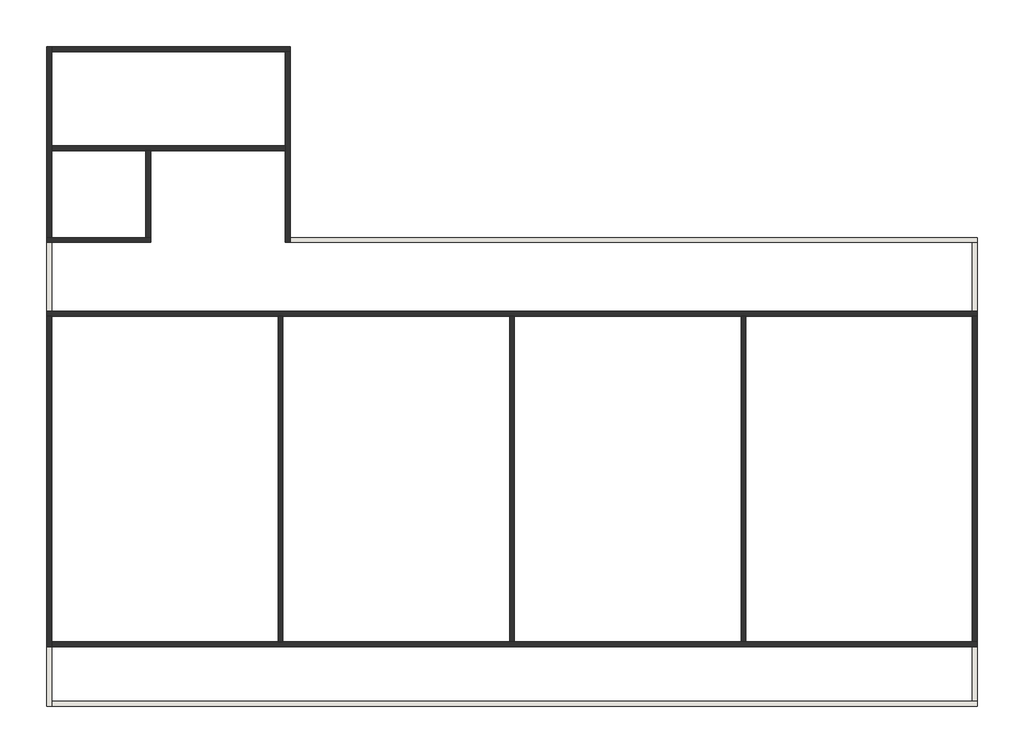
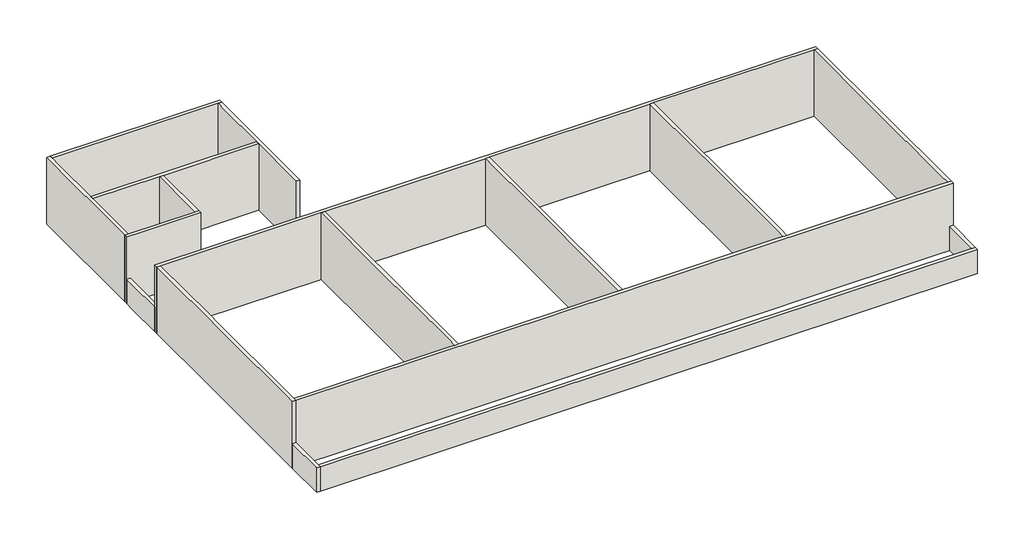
# One storey: 19 walls.
"""IFC4 building model written with IfcOpenShell, lengths in millimetres."""

from ifc_helpers import new_model, si_unit, frame, origin, place, context, project, spatial, polyline, outline, extrude, faceted_brep, element, save

model = new_model("IFC4")

# Units and contexts
model_context = context("Model", 3, world=origin())
ifc_project = project(units=[si_unit("LENGTHUNIT", "METRE", prefix="MILLI")], contexts=[model_context])

# Site, building, storey
site = spatial("IfcSite", under=ifc_project)
building = spatial("IfcBuilding", under=site)
storey = spatial("IfcBuildingStorey", under=building, Name="基準階", Elevation=3600.0)

# Walls
placement = place(None, origin())
element("IfcWall", 1, ObjectType="標準-150mm", at=placement, inside=storey, context=model_context, shape_type="Brep", body=[
    faceted_brep([(-19691.9943915, 10614.5472574, 3600.0), (-19691.9943915, 4839.5472574, 3600.0), (-19691.9943915, 4839.5472574, 6600.0), (-19691.9943915, 10614.5472574, 6600.0), (-19541.9943915, 10614.5472574, 3600.0), (-19541.9943915, 10614.5472574, 6600.0), (-19541.9943915, 10464.5472574, 6600.0), (-19541.9943915, 10014.5472574, 6600.0), (-19541.9943915, 7614.5472574, 6600.0), (-19541.9943915, 7464.5472574, 6600.0), (-19541.9943915, 4839.5472574, 6600.0), (-19541.9943915, 4839.5472574, 3600.0), (-19541.9943915, 7464.5472574, 3600.0), (-19541.9943915, 7614.5472574, 3600.0), (-19541.9943915, 10464.5472574, 3600.0)], [[[0, 1, 2, 3]], [[4, 5, 6, 7, 8, 9, 10, 11, 12, 13, 14]], [[1, 0, 4, 14, 13, 12, 11]], [[3, 2, 10, 9, 8, 7, 6, 5]], [[0, 3, 5, 4]], [[1, 11, 10, 2]]]),
])
element("IfcWall", 2, ObjectType="標準-150mm", at=placement, inside=storey, context=model_context, shape_type="Brep", body=[
    faceted_brep([(-19541.9943915, -7535.4527426, 6600.0), (-19541.9943915, -7535.4527426, 3600.0), (-12766.9943915, -7535.4527426, 3600.0), (-12316.9943915, -7535.4527426, 3600.0), (-5916.9943915, -7535.4527426, 3600.0), (-5316.9943915, -7535.4527426, 3600.0), (1083.0056085, -7535.4527426, 3600.0), (1683.0056085, -7535.4527426, 3600.0), (7858.0056085, -7535.4527426, 3600.0), (8308.0056085, -7535.4527426, 3600.0), (8458.0056085, -7535.4527426, 3600.0), (8458.0056085, -7535.4527426, 4700.0), (8458.0056085, -7535.4527426, 6600.0), (-19541.9943915, -7385.4527426, 3600.0), (-19541.9943915, -7385.4527426, 6600.0), (-19091.9943915, -7385.4527426, 6600.0), (-12916.9943915, -7385.4527426, 6600.0), (-12691.9943915, -7385.4527426, 6600.0), (-12541.9943915, -7385.4527426, 6600.0), (-12316.9943915, -7385.4527426, 6600.0), (-5916.9943915, -7385.4527426, 6600.0), (-5691.9943915, -7385.4527426, 6600.0), (-5541.9943915, -7385.4527426, 6600.0), (-5316.9943915, -7385.4527426, 6600.0), (1083.0056085, -7385.4527426, 6600.0), (1308.0056085, -7385.4527426, 6600.0), (1458.0056085, -7385.4527426, 6600.0), (1683.0056085, -7385.4527426, 6600.0), (7858.0056085, -7385.4527426, 6600.0), (8308.0056085, -7385.4527426, 6600.0), (8458.0056085, -7385.4527426, 6600.0), (8458.0056085, -7385.4527426, 3600.0), (8308.0056085, -7385.4527426, 3600.0), (7858.0056085, -7385.4527426, 3600.0), (1683.0056085, -7385.4527426, 3600.0), (1458.0056085, -7385.4527426, 3600.0), (1308.0056085, -7385.4527426, 3600.0), (1083.0056085, -7385.4527426, 3600.0), (-5316.9943915, -7385.4527426, 3600.0), (-5541.9943915, -7385.4527426, 3600.0), (-5691.9943915, -7385.4527426, 3600.0), (-5916.9943915, -7385.4527426, 3600.0), (-12316.9943915, -7385.4527426, 3600.0), (-12541.9943915, -7385.4527426, 3600.0), (-12691.9943915, -7385.4527426, 3600.0), (-12766.9943915, -7385.4527426, 3600.0), (-12916.9943915, -7385.4527426, 3600.0)], [[[0, 1, 2, 3, 4, 5, 6, 7, 8, 9, 10, 11, 12]], [[13, 14, 15, 16, 17, 18, 19, 20, 21, 22, 23, 24, 25, 26, 27, 28, 29, 30, 31, 32, 33, 34, 35, 36, 37, 38, 39, 40, 41, 42, 43, 44, 45, 46]], [[10, 9, 8, 7, 6, 5, 4, 3, 2, 1, 13, 46, 45, 44, 43, 42, 41, 40, 39, 38, 37, 36, 35, 34, 33, 32, 31]], [[0, 12, 30, 29, 28, 27, 26, 25, 24, 23, 22, 21, 20, 19, 18, 17, 16, 15, 14]], [[0, 14, 13, 1]], [[10, 31, 30, 12, 11]]]),
])
element("IfcWall", 3, ObjectType="標準-150mm", at=placement, inside=storey, context=model_context, shape_type="Brep", body=[
    faceted_brep([(8458.0056085, -7385.4527426, 6600.0), (8458.0056085, -7385.4527426, 3600.0), (8458.0056085, 2464.5472574, 3600.0), (8458.0056085, 2464.5472574, 6600.0), (8308.0056085, -7385.4527426, 3600.0), (8308.0056085, -7385.4527426, 6600.0), (8308.0056085, -6935.4527426, 6600.0), (8308.0056085, -1760.4527426, 6600.0), (8308.0056085, -1160.4527426, 6600.0), (8308.0056085, 2464.5472574, 6600.0), (8308.0056085, 2464.5472574, 3600.0)], [[[0, 1, 2, 3]], [[4, 5, 6, 7, 8, 9, 10]], [[2, 1, 4, 10]], [[0, 3, 9, 8, 7, 6, 5]], [[0, 5, 4, 1]], [[2, 10, 9, 3]]]),
])
element("IfcWall", 4, ObjectType="標準-150mm", at=placement, inside=storey, context=model_context, shape_type="Brep", body=[
    faceted_brep([(-19541.9943915, 10464.5472574, 3600.0), (-12916.9943915, 10464.5472574, 3600.0), (-12766.9943915, 10464.5472574, 3600.0), (-12466.9943915, 10464.5472574, 3600.0), (-12316.9943915, 10464.5472574, 3600.0), (-12316.9943915, 10464.5472574, 6600.0), (-12466.9943915, 10464.5472574, 6600.0), (-12916.9943915, 10464.5472574, 6600.0), (-19091.9943915, 10464.5472574, 6600.0), (-19541.9943915, 10464.5472574, 6600.0), (-19541.9943915, 10614.5472574, 3600.0), (-19541.9943915, 10614.5472574, 6600.0), (-12316.9943915, 10614.5472574, 6600.0), (-12316.9943915, 10614.5472574, 3600.0)], [[[0, 1, 2, 3, 4, 5, 6, 7, 8, 9]], [[10, 11, 12, 13]], [[4, 3, 2, 1, 0, 10, 13]], [[9, 8, 7, 6, 5, 12, 11]], [[0, 9, 11, 10]], [[5, 4, 13, 12]]]),
])
element("IfcWall", 5, ObjectType="標準-150mm", at=placement, inside=storey, context=model_context, shape_type="Brep", body=[
    faceted_brep([(-19691.9943915, 2464.5472574, 6600.0), (-19691.9943915, 2464.5472574, 3600.0), (-19541.9943915, 2464.5472574, 3600.0), (-12691.9943915, 2464.5472574, 3600.0), (-12541.9943915, 2464.5472574, 3600.0), (-5691.9943915, 2464.5472574, 3600.0), (-5541.9943915, 2464.5472574, 3600.0), (1308.0056085, 2464.5472574, 3600.0), (1458.0056085, 2464.5472574, 3600.0), (8308.0056085, 2464.5472574, 3600.0), (8458.0056085, 2464.5472574, 3600.0), (8458.0056085, 2464.5472574, 6600.0), (8308.0056085, 2464.5472574, 6600.0), (1458.0056085, 2464.5472574, 6600.0), (1308.0056085, 2464.5472574, 6600.0), (-5541.9943915, 2464.5472574, 6600.0), (-5691.9943915, 2464.5472574, 6600.0), (-12541.9943915, 2464.5472574, 6600.0), (-12691.9943915, 2464.5472574, 6600.0), (-19541.9943915, 2464.5472574, 6600.0), (-19691.9943915, 2614.5472574, 3600.0), (-19691.9943915, 2614.5472574, 4700.0), (-19691.9943915, 2614.5472574, 6600.0), (8458.0056085, 2614.5472574, 6600.0), (8458.0056085, 2614.5472574, 4700.0), (8458.0056085, 2614.5472574, 3600.0), (8308.0056085, 2614.5472574, 3600.0), (-19541.9943915, 2614.5472574, 3600.0)], [[[0, 1, 2, 3, 4, 5, 6, 7, 8, 9, 10, 11, 12, 13, 14, 15, 16, 17, 18, 19]], [[20, 21, 22, 23, 24, 25, 26, 27]], [[10, 9, 8, 7, 6, 5, 4, 3, 2, 1, 20, 27, 26, 25]], [[0, 19, 18, 17, 16, 15, 14, 13, 12, 11, 23, 22]], [[0, 22, 21, 20, 1]], [[10, 25, 24, 23, 11]]]),
])
element("IfcWall", 6, ObjectType="標準-150mm", at=placement, inside=storey, context=model_context, shape_type="Brep", body=[
    faceted_brep([(-19691.9943915, 4689.5472574, 6600.0), (-19691.9943915, 4689.5472574, 4700.0), (-19691.9943915, 4689.5472574, 3600.0), (-19541.9943915, 4689.5472574, 3600.0), (-16541.9943915, 4689.5472574, 3600.0), (-16541.9943915, 4689.5472574, 6600.0), (-19091.9943915, 4689.5472574, 6600.0), (-19691.9943915, 4839.5472574, 3600.0), (-19691.9943915, 4839.5472574, 6600.0), (-19541.9943915, 4839.5472574, 6600.0), (-16691.9943915, 4839.5472574, 6600.0), (-16541.9943915, 4839.5472574, 6600.0), (-16541.9943915, 4839.5472574, 3600.0), (-16691.9943915, 4839.5472574, 3600.0), (-19541.9943915, 4839.5472574, 3600.0)], [[[0, 1, 2, 3, 4, 5, 6]], [[7, 8, 9, 10, 11, 12, 13, 14]], [[4, 3, 2, 7, 14, 13, 12]], [[0, 6, 5, 11, 10, 9, 8]], [[5, 4, 12, 11]], [[0, 8, 7, 2, 1]]]),
])
element("IfcWall", 7, ObjectType="標準-150mm", at=placement, inside=storey, context=model_context, shape_type="SweptSolid", body=[
    extrude(outline(polyline([(-16541.9943915, 7464.5472574), (-16541.9943915, 4839.5472574), (-16691.9943915, 4839.5472574), (-16691.9943915, 7464.5472574), (-16541.9943915, 7464.5472574)])), frame((0.0, 0.0, 3600.0), z_axis=(0.0, 0.0, 1.0), x_axis=(1.0, 0.0, 0.0)), (0.0, 0.0, 1.0), 3000.0),
])
element("IfcWall", 8, ObjectType="標準-150mm", at=placement, inside=storey, context=model_context, shape_type="Brep", body=[
    faceted_brep([(-19541.9943915, 7464.5472574, 3600.0), (-16691.9943915, 7464.5472574, 3600.0), (-16541.9943915, 7464.5472574, 3600.0), (-12466.9943915, 7464.5472574, 3600.0), (-12466.9943915, 7464.5472574, 6600.0), (-16541.9943915, 7464.5472574, 6600.0), (-16691.9943915, 7464.5472574, 6600.0), (-19541.9943915, 7464.5472574, 6600.0), (-19541.9943915, 7614.5472574, 3600.0), (-19541.9943915, 7614.5472574, 6600.0), (-12466.9943915, 7614.5472574, 6600.0), (-12466.9943915, 7614.5472574, 3600.0)], [[[0, 1, 2, 3, 4, 5, 6, 7]], [[8, 9, 10, 11]], [[3, 2, 1, 0, 8, 11]], [[7, 6, 5, 4, 10, 9]], [[0, 7, 9, 8]], [[4, 3, 11, 10]]]),
])
element("IfcWall", 9, ObjectType="標準-150mm", at=placement, inside=storey, context=model_context, shape_type="Brep", body=[
    faceted_brep([(-12466.9943915, 10464.5472574, 3600.0), (-12466.9943915, 10014.5472574, 3600.0), (-12466.9943915, 7614.5472574, 3600.0), (-12466.9943915, 7464.5472574, 3600.0), (-12466.9943915, 4839.5472574, 3600.0), (-12466.9943915, 4689.5472574, 3600.0), (-12466.9943915, 4689.5472574, 6600.0), (-12466.9943915, 4839.5472574, 6600.0), (-12466.9943915, 7464.5472574, 6600.0), (-12466.9943915, 7614.5472574, 6600.0), (-12466.9943915, 10014.5472574, 6600.0), (-12466.9943915, 10464.5472574, 6600.0), (-12316.9943915, 10464.5472574, 3600.0), (-12316.9943915, 10464.5472574, 6600.0), (-12316.9943915, 4689.5472574, 6600.0), (-12316.9943915, 4689.5472574, 4700.0), (-12316.9943915, 4689.5472574, 3600.0), (-12316.9943915, 4839.5472574, 3600.0), (-12316.9943915, 10014.5472574, 3600.0)], [[[0, 1, 2, 3, 4, 5, 6, 7, 8, 9, 10, 11]], [[12, 13, 14, 15, 16, 17, 18]], [[5, 4, 3, 2, 1, 0, 12, 18, 17, 16]], [[11, 10, 9, 8, 7, 6, 14, 13]], [[6, 5, 16, 15, 14]], [[0, 11, 13, 12]]]),
])
element("IfcWall", 10, ObjectType="標準-150mm", at=placement, inside=storey, context=model_context, shape_type="Brep", body=[
    faceted_brep([(-12691.9943915, 2464.5472574, 3600.0), (-12691.9943915, -1160.4527426, 3600.0), (-12691.9943915, -1760.4527426, 3600.0), (-12691.9943915, -6935.4527426, 3600.0), (-12691.9943915, -7385.4527426, 3600.0), (-12691.9943915, -7385.4527426, 6600.0), (-12691.9943915, -6935.4527426, 6600.0), (-12691.9943915, -1760.4527426, 6600.0), (-12691.9943915, -1160.4527426, 6600.0), (-12691.9943915, 2464.5472574, 6600.0), (-12541.9943915, 2464.5472574, 3600.0), (-12541.9943915, 2464.5472574, 6600.0), (-12541.9943915, -1160.4527426, 6600.0), (-12541.9943915, -1760.4527426, 6600.0), (-12541.9943915, -6935.4527426, 6600.0), (-12541.9943915, -7385.4527426, 6600.0), (-12541.9943915, -7385.4527426, 3600.0), (-12541.9943915, -6935.4527426, 3600.0), (-12541.9943915, -1760.4527426, 3600.0), (-12541.9943915, -1160.4527426, 3600.0)], [[[0, 1, 2, 3, 4, 5, 6, 7, 8, 9]], [[10, 11, 12, 13, 14, 15, 16, 17, 18, 19]], [[4, 3, 2, 1, 0, 10, 19, 18, 17, 16]], [[9, 8, 7, 6, 5, 15, 14, 13, 12, 11]], [[5, 4, 16, 15]], [[0, 9, 11, 10]]]),
])
element("IfcWall", 11, ObjectType="標準-150mm", at=placement, inside=storey, context=model_context, shape_type="Brep", body=[
    faceted_brep([(-5691.9943915, 2464.5472574, 3600.0), (-5691.9943915, -1160.4527426, 3600.0), (-5691.9943915, -1760.4527426, 3600.0), (-5691.9943915, -6935.4527426, 3600.0), (-5691.9943915, -7385.4527426, 3600.0), (-5691.9943915, -7385.4527426, 6600.0), (-5691.9943915, -6935.4527426, 6600.0), (-5691.9943915, -1760.4527426, 6600.0), (-5691.9943915, -1160.4527426, 6600.0), (-5691.9943915, 2464.5472574, 6600.0), (-5541.9943915, 2464.5472574, 3600.0), (-5541.9943915, 2464.5472574, 6600.0), (-5541.9943915, -1160.4527426, 6600.0), (-5541.9943915, -1760.4527426, 6600.0), (-5541.9943915, -6935.4527426, 6600.0), (-5541.9943915, -7385.4527426, 6600.0), (-5541.9943915, -7385.4527426, 3600.0), (-5541.9943915, -6935.4527426, 3600.0), (-5541.9943915, -1760.4527426, 3600.0), (-5541.9943915, -1160.4527426, 3600.0)], [[[0, 1, 2, 3, 4, 5, 6, 7, 8, 9]], [[10, 11, 12, 13, 14, 15, 16, 17, 18, 19]], [[4, 3, 2, 1, 0, 10, 19, 18, 17, 16]], [[9, 8, 7, 6, 5, 15, 14, 13, 12, 11]], [[5, 4, 16, 15]], [[0, 9, 11, 10]]]),
])
element("IfcWall", 12, ObjectType="標準-150mm", at=placement, inside=storey, context=model_context, shape_type="Brep", body=[
    faceted_brep([(1308.0056085, 2464.5472574, 3600.0), (1308.0056085, -1160.4527426, 3600.0), (1308.0056085, -1760.4527426, 3600.0), (1308.0056085, -6935.4527426, 3600.0), (1308.0056085, -7385.4527426, 3600.0), (1308.0056085, -7385.4527426, 6600.0), (1308.0056085, -6935.4527426, 6600.0), (1308.0056085, -1760.4527426, 6600.0), (1308.0056085, -1160.4527426, 6600.0), (1308.0056085, 2464.5472574, 6600.0), (1458.0056085, 2464.5472574, 3600.0), (1458.0056085, 2464.5472574, 6600.0), (1458.0056085, -1160.4527426, 6600.0), (1458.0056085, -1760.4527426, 6600.0), (1458.0056085, -6935.4527426, 6600.0), (1458.0056085, -7385.4527426, 6600.0), (1458.0056085, -7385.4527426, 3600.0), (1458.0056085, -6935.4527426, 3600.0), (1458.0056085, -1760.4527426, 3600.0), (1458.0056085, -1160.4527426, 3600.0)], [[[0, 1, 2, 3, 4, 5, 6, 7, 8, 9]], [[10, 11, 12, 13, 14, 15, 16, 17, 18, 19]], [[4, 3, 2, 1, 0, 10, 19, 18, 17, 16]], [[9, 8, 7, 6, 5, 15, 14, 13, 12, 11]], [[5, 4, 16, 15]], [[0, 9, 11, 10]]]),
])
element("IfcWall", 13, ObjectType="標準-150mm", at=placement, inside=storey, context=model_context, shape_type="Brep", body=[
    faceted_brep([(-12316.9943915, 4689.5472574, 3600.0), (-5916.9943915, 4689.5472574, 3600.0), (-5316.9943915, 4689.5472574, 3600.0), (1083.0056085, 4689.5472574, 3600.0), (1233.0056085, 4689.5472574, 3600.0), (7858.0056085, 4689.5472574, 3600.0), (8308.0056085, 4689.5472574, 3600.0), (8458.0056085, 4689.5472574, 3600.0), (8458.0056085, 4689.5472574, 4700.0), (8308.0056085, 4689.5472574, 4700.0), (7858.0056085, 4689.5472574, 4700.0), (1683.0056085, 4689.5472574, 4700.0), (1083.0056085, 4689.5472574, 4700.0), (-5316.9943915, 4689.5472574, 4700.0), (-5916.9943915, 4689.5472574, 4700.0), (-12316.9943915, 4689.5472574, 4700.0), (-12316.9943915, 4839.5472574, 3600.0), (-12316.9943915, 4839.5472574, 4700.0), (-5916.9943915, 4839.5472574, 4700.0), (-5316.9943915, 4839.5472574, 4700.0), (1083.0056085, 4839.5472574, 4700.0), (1683.0056085, 4839.5472574, 4700.0), (7858.0056085, 4839.5472574, 4700.0), (8458.0056085, 4839.5472574, 4700.0), (8458.0056085, 4839.5472574, 3600.0), (8308.0056085, 4839.5472574, 3600.0), (7858.0056085, 4839.5472574, 3600.0), (-5316.9943915, 4839.5472574, 3600.0), (-5916.9943915, 4839.5472574, 3600.0)], [[[0, 1, 2, 3, 4, 5, 6, 7, 8, 9, 10, 11, 12, 13, 14, 15]], [[16, 17, 18, 19, 20, 21, 22, 23, 24, 25, 26, 27, 28]], [[7, 6, 5, 4, 3, 2, 1, 0, 16, 28, 27, 26, 25, 24]], [[15, 14, 13, 12, 11, 10, 9, 8, 23, 22, 21, 20, 19, 18, 17]], [[0, 15, 17, 16]], [[8, 7, 24, 23]]]),
])
element("IfcWall", 14, ObjectType="標準-150mm", at=placement, inside=storey, context=model_context, shape_type="Brep", body=[
    faceted_brep([(-19691.9943915, -7535.4527426, 3600.0), (-19691.9943915, -9335.4527426, 3600.0), (-19691.9943915, -9335.4527426, 4700.0), (-19691.9943915, -7535.4527426, 4700.0), (-19541.9943915, -7535.4527426, 3600.0), (-19541.9943915, -7535.4527426, 4700.0), (-19541.9943915, -9185.4527426, 4700.0), (-19541.9943915, -9335.4527426, 4700.0), (-19541.9943915, -9335.4527426, 3600.0), (-19541.9943915, -9185.4527426, 3600.0)], [[[0, 1, 2, 3]], [[4, 5, 6, 7, 8, 9]], [[1, 0, 4, 9, 8]], [[3, 2, 7, 6, 5]], [[0, 3, 5, 4]], [[2, 1, 8, 7]]]),
])
element("IfcWall", 15, ObjectType="標準-150mm", at=placement, inside=storey, context=model_context, shape_type="Brep", body=[
    faceted_brep([(-19541.9943915, -9335.4527426, 3600.0), (8458.0056085, -9335.4527426, 3600.0), (8458.0056085, -9335.4527426, 4700.0), (-19541.9943915, -9335.4527426, 4700.0), (-19541.9943915, -9185.4527426, 3600.0), (-19541.9943915, -9185.4527426, 4700.0), (8308.0056085, -9185.4527426, 4700.0), (8458.0056085, -9185.4527426, 4700.0), (8458.0056085, -9185.4527426, 3600.0), (8308.0056085, -9185.4527426, 3600.0)], [[[0, 1, 2, 3]], [[4, 5, 6, 7, 8, 9]], [[1, 0, 4, 9, 8]], [[3, 2, 7, 6, 5]], [[0, 3, 5, 4]], [[2, 1, 8, 7]]]),
])
element("IfcWall", 16, ObjectType="標準-150mm", at=placement, inside=storey, context=model_context, shape_type="SweptSolid", body=[
    extrude(outline(polyline([(8458.0056085, -7535.4527426), (8458.0056085, -9185.4527426), (8308.0056085, -9185.4527426), (8308.0056085, -7535.4527426), (8458.0056085, -7535.4527426)])), frame((0.0, 0.0, 3600.0), z_axis=(0.0, 0.0, 1.0), x_axis=(1.0, 0.0, 0.0)), (0.0, 0.0, 1.0), 1100.0),
])
element("IfcWall", 17, ObjectType="標準-150mm", at=placement, inside=storey, context=model_context, shape_type="Brep", body=[
    faceted_brep([(-19691.9943915, 2464.5472574, 6600.0), (-19691.9943915, 2464.5472574, 3600.0), (-19691.9943915, -1310.4527426, 3600.0), (-19691.9943915, -1760.4527426, 3600.0), (-19691.9943915, -7535.4527426, 3600.0), (-19691.9943915, -7535.4527426, 4700.0), (-19691.9943915, -7535.4527426, 6600.0), (-19541.9943915, 2464.5472574, 3600.0), (-19541.9943915, 2464.5472574, 6600.0), (-19541.9943915, -1160.4527426, 6600.0), (-19541.9943915, -1760.4527426, 6600.0), (-19541.9943915, -6935.4527426, 6600.0), (-19541.9943915, -7385.4527426, 6600.0), (-19541.9943915, -7535.4527426, 6600.0), (-19541.9943915, -7535.4527426, 4700.0), (-19541.9943915, -7535.4527426, 3600.0), (-19541.9943915, -7385.4527426, 3600.0), (-19541.9943915, -1760.4527426, 3600.0), (-19541.9943915, -1310.4527426, 3600.0), (-19541.9943915, -1160.4527426, 3600.0)], [[[0, 1, 2, 3, 4, 5, 6]], [[7, 8, 9, 10, 11, 12, 13, 14, 15, 16, 17, 18, 19]], [[4, 3, 2, 1, 7, 19, 18, 17, 16, 15]], [[0, 6, 13, 12, 11, 10, 9, 8]], [[4, 15, 14, 13, 6, 5]], [[0, 8, 7, 1]]]),
])
element("IfcWall", 18, ObjectType="標準-150mm", at=placement, inside=storey, context=model_context, shape_type="Brep", body=[
    faceted_brep([(-19541.9943915, 2614.5472574, 3600.0), (-19541.9943915, 4239.5472574, 3600.0), (-19541.9943915, 4689.5472574, 3600.0), (-19541.9943915, 4689.5472574, 4700.0), (-19541.9943915, 4239.5472574, 4700.0), (-19541.9943915, 2614.5472574, 4700.0), (-19691.9943915, 2614.5472574, 3600.0), (-19691.9943915, 2614.5472574, 4700.0), (-19691.9943915, 4239.5472574, 4700.0), (-19691.9943915, 4689.5472574, 4700.0), (-19691.9943915, 4689.5472574, 3600.0), (-19691.9943915, 4239.5472574, 3600.0)], [[[0, 1, 2, 3, 4, 5]], [[6, 7, 8, 9, 10, 11]], [[2, 1, 0, 6, 11, 10]], [[5, 4, 3, 9, 8, 7]], [[0, 5, 7, 6]], [[3, 2, 10, 9]]]),
])
element("IfcWall", 19, ObjectType="標準-150mm", at=placement, inside=storey, context=model_context, shape_type="Brep", body=[
    faceted_brep([(8458.0056085, 2614.5472574, 3600.0), (8458.0056085, 4689.5472574, 3600.0), (8458.0056085, 4689.5472574, 4700.0), (8458.0056085, 4239.5472574, 4700.0), (8458.0056085, 2614.5472574, 4700.0), (8308.0056085, 2614.5472574, 3600.0), (8308.0056085, 2614.5472574, 4700.0), (8308.0056085, 4239.5472574, 4700.0), (8308.0056085, 4689.5472574, 4700.0), (8308.0056085, 4689.5472574, 3600.0)], [[[0, 1, 2, 3, 4]], [[5, 6, 7, 8, 9]], [[1, 0, 5, 9]], [[4, 3, 2, 8, 7, 6]], [[0, 4, 6, 5]], [[2, 1, 9, 8]]]),
])

save(model, "model.ifc")
